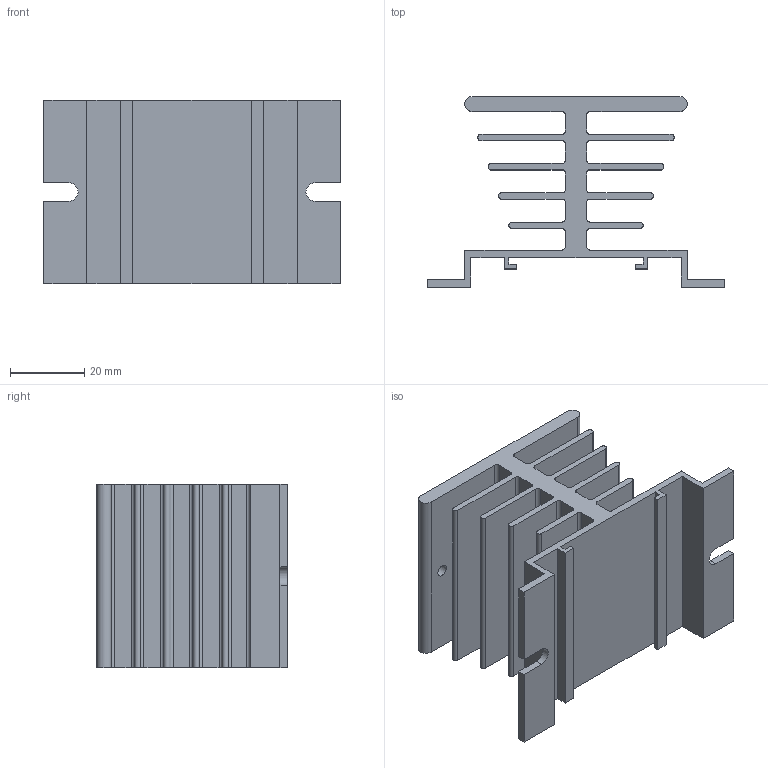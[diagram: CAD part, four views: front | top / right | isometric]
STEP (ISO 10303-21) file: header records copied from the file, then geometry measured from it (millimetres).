
FILE_DESCRIPTION(/* description */ ('Alibre Inc.'),/* implementation_level */ '2;1');
FILE_NAME(/* name */ 'export0',/* time_stamp */ '2013-08-21T12:36:06-06:00',/* author */ (''),/* organization */ (''),/* preprocessor_version */ 'ST-DEVELOPER v14',/* originating_system */ 'Alibre',/* authorisation */ '');
FILE_SCHEMA (('ALIBRE_SCHEMA','CONFIG_CONTROL_DESIGN'));
Length unit declared in the file: centimetre
Products named in the file (1): ID_1
Bounding box: 80 x 51.5 x 49.6 mm (x, y, z)
Volume: 45180.1 mm3; surface area: 36564.5 mm2
Topology: 1 solids, 1 shells, 96 faces, 282 edges, 188 vertices
Faces by surface type: plane 62, cylinder 34
Full cylindrical faces by diameter (mm): 3.242 x2
Entity records: 7654 total; most frequent: CARTESIAN_POINT 1201, DIRECTION 695, CONSTRAINTPAIRUV 665, ORIENTED_EDGE 560, REFERENCEDEPENDENTUV 521, VECTOR 420, LINE 347, REFERENCEPOINTUV 322
